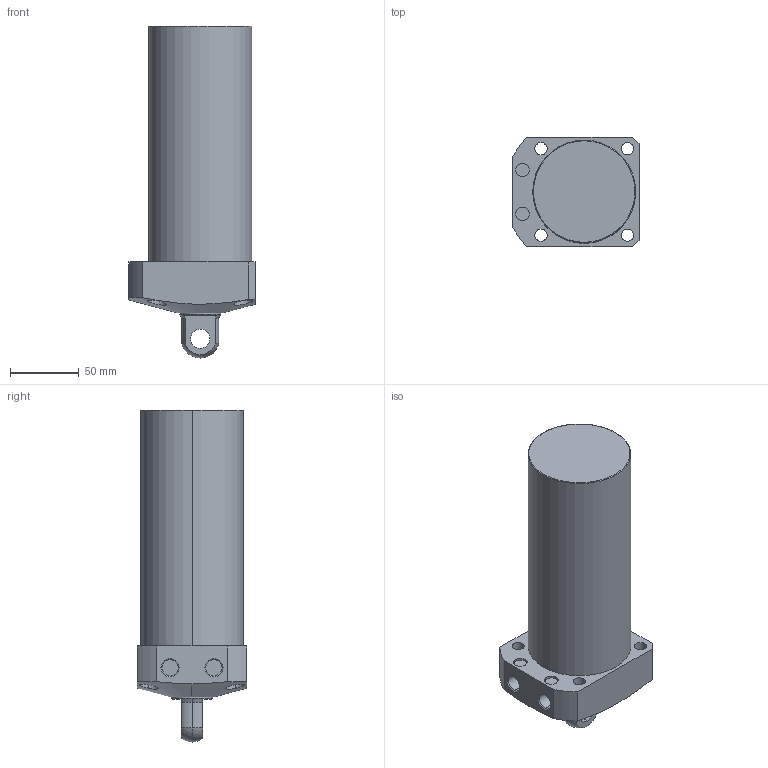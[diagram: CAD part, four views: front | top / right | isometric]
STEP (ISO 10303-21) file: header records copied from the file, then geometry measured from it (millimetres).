
FILE_DESCRIPTION (( 'STEP AP203' ), '1' );
FILE_NAME ('CLL-075CP-135.STEP', '2019-12-25T07:54:01', ( '' ), ( '' ), 'SwSTEP 2.0', 'SolidWorks 2015', '' );
FILE_SCHEMA (( 'CONFIG_CONTROL_DESIGN' ));
Length unit declared in the file: millimetre
Products named in the file (1): CLL-075CP-135
Bounding box: 92 x 80 x 242 mm (x, y, z)
Volume: 987314.6 mm3; surface area: 72430.2 mm2
Topology: 1 solids, 1 shells, 68 faces, 159 edges, 103 vertices
Faces by surface type: cylinder 35, plane 21, cone 8, sphere 2, torus 2
Entity records: 2459 total; most frequent: CARTESIAN_POINT 762, DIRECTION 357, ORIENTED_EDGE 318, EDGE_CURVE 159, AXIS2_PLACEMENT_3D 149, VERTEX_POINT 103, EDGE_LOOP 88, CIRCLE 80
